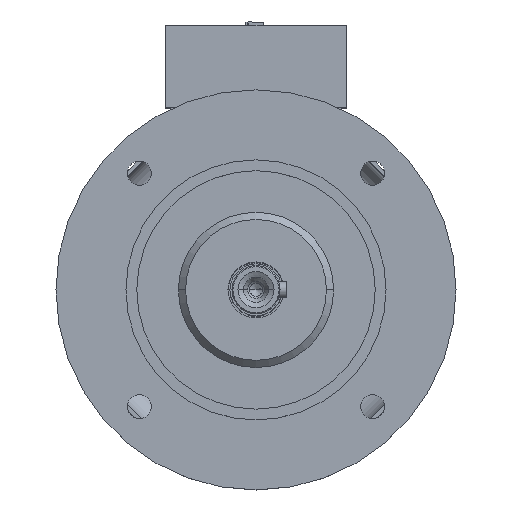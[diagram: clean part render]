
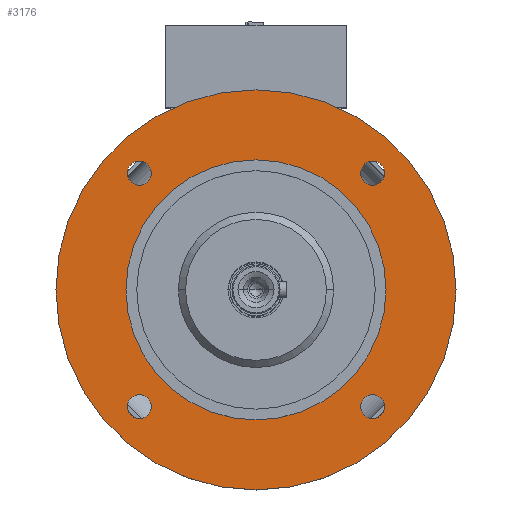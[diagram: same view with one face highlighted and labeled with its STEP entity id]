
A CAD part, top view. The second image highlights one B-rep face of the part: STEP entity #3176.
In plain terms, the highlighted planar face has unit normal (0, 0, 1).
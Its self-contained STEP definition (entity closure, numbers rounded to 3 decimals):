
#419 = DIRECTION ( 'NONE',  ( 0., 0., -1. ) ) ;
#460 = CARTESIAN_POINT ( 'NONE',  ( 58.336, -58.336, 118.5 ) ) ;
#510 = CARTESIAN_POINT ( 'NONE',  ( 64.336, -58.336, 118.5 ) ) ;
#534 = ORIENTED_EDGE ( 'NONE', *, *, #12293, .F. ) ;
#546 = ORIENTED_EDGE ( 'NONE', *, *, #6311, .F. ) ;
#554 = VERTEX_POINT ( 'NONE', #12809 ) ;
#748 = DIRECTION ( 'NONE',  ( 0., 0., -1. ) ) ;
#801 = EDGE_LOOP ( 'NONE', ( #3669, #11731 ) ) ;
#818 = CARTESIAN_POINT ( 'NONE',  ( -58.336, 58.336, 118.5 ) ) ;
#837 = FACE_OUTER_BOUND ( 'NONE', #12506, .T. ) ;
#862 = AXIS2_PLACEMENT_3D ( 'NONE', #3618, #11097, #11190 ) ;
#996 = FACE_BOUND ( 'NONE', #13291, .T. ) ;
#1014 = CARTESIAN_POINT ( 'NONE',  ( 64.336, 58.336, 118.5 ) ) ;
#1139 = DIRECTION ( 'NONE',  ( 1., 0., 0. ) ) ;
#1194 = DIRECTION ( 'NONE',  ( 0., 0., 1. ) ) ;
#1314 = AXIS2_PLACEMENT_3D ( 'NONE', #3649, #419, #2661 ) ;
#1509 = ORIENTED_EDGE ( 'NONE', *, *, #9186, .F. ) ;
#1753 = AXIS2_PLACEMENT_3D ( 'NONE', #3548, #13332, #7937 ) ;
#1851 = CARTESIAN_POINT ( 'NONE',  ( -58.336, -58.336, 118.5 ) ) ;
#1919 = CARTESIAN_POINT ( 'NONE',  ( 65., 0., 118.5 ) ) ;
#2139 = CARTESIAN_POINT ( 'NONE',  ( 58.336, -58.336, 118.5 ) ) ;
#2312 = ORIENTED_EDGE ( 'NONE', *, *, #7508, .F. ) ;
#2657 = CIRCLE ( 'NONE', #8623, 65. ) ;
#2661 = DIRECTION ( 'NONE',  ( -1., 0., 0. ) ) ;
#2732 = AXIS2_PLACEMENT_3D ( 'NONE', #1851, #9452, #12718 ) ;
#2874 = AXIS2_PLACEMENT_3D ( 'NONE', #460, #8204, #6006 ) ;
#2898 = AXIS2_PLACEMENT_3D ( 'NONE', #2139, #5403, #1139 ) ;
#2944 = EDGE_CURVE ( 'NONE', #3973, #7745, #11331, .T. ) ;
#3176 = ADVANCED_FACE ( 'NONE', ( #5585, #13559, #6256, #996, #11494, #837 ), #10172, .T. ) ;
#3325 = EDGE_CURVE ( 'NONE', #7745, #3973, #8255, .T. ) ;
#3479 = CARTESIAN_POINT ( 'NONE',  ( 0., 0., 118.5 ) ) ;
#3524 = EDGE_CURVE ( 'NONE', #5898, #3603, #9120, .T. ) ;
#3548 = CARTESIAN_POINT ( 'NONE',  ( 0., 100., 118.5 ) ) ;
#3579 = DIRECTION ( 'NONE',  ( -1., 0., 0. ) ) ;
#3603 = VERTEX_POINT ( 'NONE', #11311 ) ;
#3618 = CARTESIAN_POINT ( 'NONE',  ( -58.336, -58.336, 118.5 ) ) ;
#3649 = CARTESIAN_POINT ( 'NONE',  ( 0., 0., 118.5 ) ) ;
#3669 = ORIENTED_EDGE ( 'NONE', *, *, #2944, .F. ) ;
#3973 = VERTEX_POINT ( 'NONE', #1014 ) ;
#4012 = CARTESIAN_POINT ( 'NONE',  ( 100., 0., 118.5 ) ) ;
#4058 = VERTEX_POINT ( 'NONE', #1919 ) ;
#4071 = VERTEX_POINT ( 'NONE', #4012 ) ;
#4164 = VERTEX_POINT ( 'NONE', #11139 ) ;
#4206 = CARTESIAN_POINT ( 'NONE',  ( -64.336, -58.336, 118.5 ) ) ;
#4243 = EDGE_LOOP ( 'NONE', ( #1509, #534 ) ) ;
#4268 = DIRECTION ( 'NONE',  ( 0., 0., 1. ) ) ;
#4378 = CARTESIAN_POINT ( 'NONE',  ( 58.336, 58.336, 118.5 ) ) ;
#5066 = DIRECTION ( 'NONE',  ( 0., 1., 0. ) ) ;
#5359 = CIRCLE ( 'NONE', #2874, 6. ) ;
#5403 = DIRECTION ( 'NONE',  ( 0., 0., 1. ) ) ;
#5406 = EDGE_CURVE ( 'NONE', #3603, #5898, #7617, .T. ) ;
#5585 = FACE_BOUND ( 'NONE', #4243, .T. ) ;
#5597 = DIRECTION ( 'NONE',  ( 0., 1., 0. ) ) ;
#5898 = VERTEX_POINT ( 'NONE', #11081 ) ;
#6006 = DIRECTION ( 'NONE',  ( 1., 0., 0. ) ) ;
#6256 = FACE_BOUND ( 'NONE', #801, .T. ) ;
#6311 = EDGE_CURVE ( 'NONE', #11887, #4164, #5359, .T. ) ;
#6941 = CARTESIAN_POINT ( 'NONE',  ( 52.336, 58.336, 118.5 ) ) ;
#7243 = CIRCLE ( 'NONE', #2732, 6. ) ;
#7246 = DIRECTION ( 'NONE',  ( -1., 0., 0. ) ) ;
#7508 = EDGE_CURVE ( 'NONE', #11070, #4071, #9405, .T. ) ;
#7617 = CIRCLE ( 'NONE', #12198, 6. ) ;
#7683 = AXIS2_PLACEMENT_3D ( 'NONE', #3479, #11327, #13630 ) ;
#7745 = VERTEX_POINT ( 'NONE', #6941 ) ;
#7911 = EDGE_CURVE ( 'NONE', #4164, #11887, #11083, .T. ) ;
#7932 = ORIENTED_EDGE ( 'NONE', *, *, #10941, .T. ) ;
#7937 = DIRECTION ( 'NONE',  ( 1., 0., 0. ) ) ;
#8021 = DIRECTION ( 'NONE',  ( 0., 0., -1. ) ) ;
#8204 = DIRECTION ( 'NONE',  ( 0., 0., 1. ) ) ;
#8255 = CIRCLE ( 'NONE', #13739, 6. ) ;
#8329 = CARTESIAN_POINT ( 'NONE',  ( 58.336, 58.336, 118.5 ) ) ;
#8623 = AXIS2_PLACEMENT_3D ( 'NONE', #13360, #8021, #3579 ) ;
#8704 = CARTESIAN_POINT ( 'NONE',  ( -58.336, 58.336, 118.5 ) ) ;
#9011 = ORIENTED_EDGE ( 'NONE', *, *, #5406, .F. ) ;
#9120 = CIRCLE ( 'NONE', #9540, 6. ) ;
#9186 = EDGE_CURVE ( 'NONE', #554, #11131, #7243, .T. ) ;
#9243 = ORIENTED_EDGE ( 'NONE', *, *, #9963, .T. ) ;
#9405 = CIRCLE ( 'NONE', #7683, 100. ) ;
#9413 = CIRCLE ( 'NONE', #11269, 65. ) ;
#9452 = DIRECTION ( 'NONE',  ( 0., 0., 1. ) ) ;
#9540 = AXIS2_PLACEMENT_3D ( 'NONE', #818, #11654, #7246 ) ;
#9751 = DIRECTION ( 'NONE',  ( -1., 0., 0. ) ) ;
#9963 = EDGE_CURVE ( 'NONE', #4058, #11421, #2657, .T. ) ;
#10172 = PLANE ( 'NONE',  #1753 ) ;
#10391 = CIRCLE ( 'NONE', #862, 6. ) ;
#10941 = EDGE_CURVE ( 'NONE', #11421, #4058, #9413, .T. ) ;
#11035 = ORIENTED_EDGE ( 'NONE', *, *, #13985, .F. ) ;
#11066 = AXIS2_PLACEMENT_3D ( 'NONE', #8329, #12714, #5066 ) ;
#11070 = VERTEX_POINT ( 'NONE', #13914 ) ;
#11081 = CARTESIAN_POINT ( 'NONE',  ( -52.336, 58.336, 118.5 ) ) ;
#11083 = CIRCLE ( 'NONE', #2898, 6. ) ;
#11097 = DIRECTION ( 'NONE',  ( 0., 0., 1. ) ) ;
#11131 = VERTEX_POINT ( 'NONE', #4206 ) ;
#11139 = CARTESIAN_POINT ( 'NONE',  ( 52.336, -58.336, 118.5 ) ) ;
#11190 = DIRECTION ( 'NONE',  ( 0., -1., 0. ) ) ;
#11269 = AXIS2_PLACEMENT_3D ( 'NONE', #12685, #748, #11530 ) ;
#11311 = CARTESIAN_POINT ( 'NONE',  ( -64.336, 58.336, 118.5 ) ) ;
#11327 = DIRECTION ( 'NONE',  ( 0., 0., -1. ) ) ;
#11331 = CIRCLE ( 'NONE', #11066, 6. ) ;
#11421 = VERTEX_POINT ( 'NONE', #13679 ) ;
#11494 = FACE_BOUND ( 'NONE', #12144, .T. ) ;
#11530 = DIRECTION ( 'NONE',  ( -1., 0., 0. ) ) ;
#11654 = DIRECTION ( 'NONE',  ( 0., 0., 1. ) ) ;
#11731 = ORIENTED_EDGE ( 'NONE', *, *, #3325, .F. ) ;
#11848 = ORIENTED_EDGE ( 'NONE', *, *, #7911, .F. ) ;
#11887 = VERTEX_POINT ( 'NONE', #510 ) ;
#12144 = EDGE_LOOP ( 'NONE', ( #7932, #9243 ) ) ;
#12198 = AXIS2_PLACEMENT_3D ( 'NONE', #8704, #4268, #9751 ) ;
#12293 = EDGE_CURVE ( 'NONE', #11131, #554, #10391, .T. ) ;
#12506 = EDGE_LOOP ( 'NONE', ( #2312, #11035 ) ) ;
#12550 = CIRCLE ( 'NONE', #1314, 100. ) ;
#12685 = CARTESIAN_POINT ( 'NONE',  ( 0., 0., 118.5 ) ) ;
#12714 = DIRECTION ( 'NONE',  ( 0., 0., 1. ) ) ;
#12718 = DIRECTION ( 'NONE',  ( 0., -1., 0. ) ) ;
#12809 = CARTESIAN_POINT ( 'NONE',  ( -52.336, -58.336, 118.5 ) ) ;
#13291 = EDGE_LOOP ( 'NONE', ( #546, #11848 ) ) ;
#13293 = EDGE_LOOP ( 'NONE', ( #13783, #9011 ) ) ;
#13332 = DIRECTION ( 'NONE',  ( 0., 0., 1. ) ) ;
#13360 = CARTESIAN_POINT ( 'NONE',  ( 0., 0., 118.5 ) ) ;
#13559 = FACE_BOUND ( 'NONE', #13293, .T. ) ;
#13630 = DIRECTION ( 'NONE',  ( -1., 0., 0. ) ) ;
#13679 = CARTESIAN_POINT ( 'NONE',  ( -65., 0., 118.5 ) ) ;
#13739 = AXIS2_PLACEMENT_3D ( 'NONE', #4378, #1194, #5597 ) ;
#13783 = ORIENTED_EDGE ( 'NONE', *, *, #3524, .F. ) ;
#13914 = CARTESIAN_POINT ( 'NONE',  ( -100., 0., 118.5 ) ) ;
#13985 = EDGE_CURVE ( 'NONE', #4071, #11070, #12550, .T. ) ;
